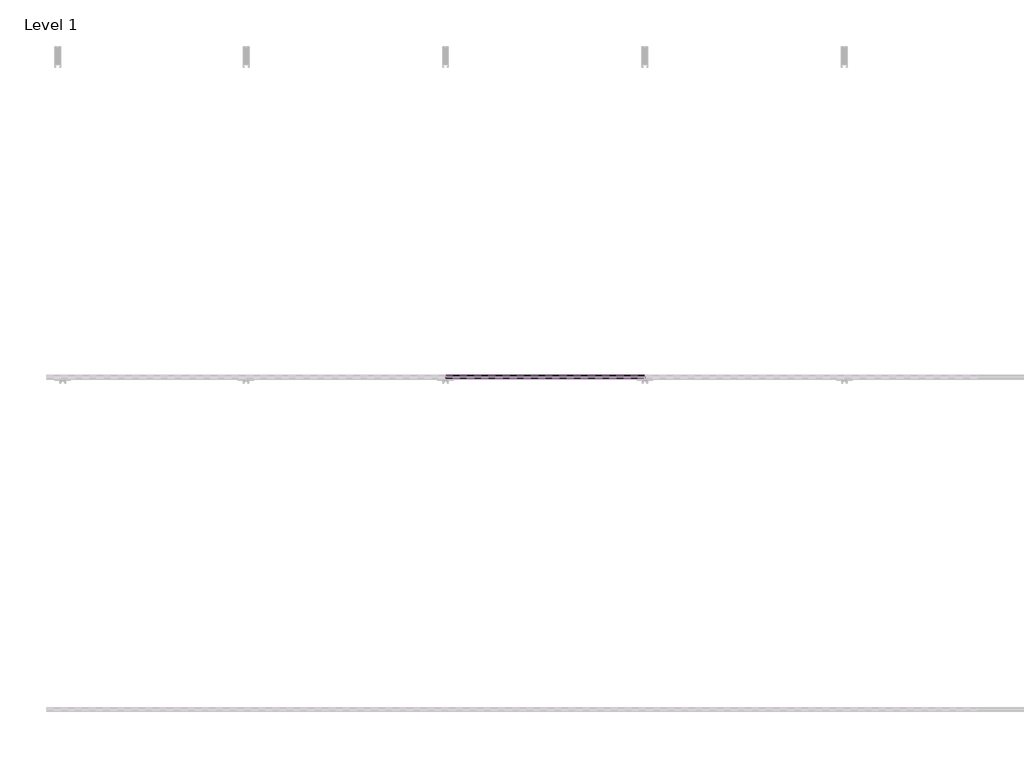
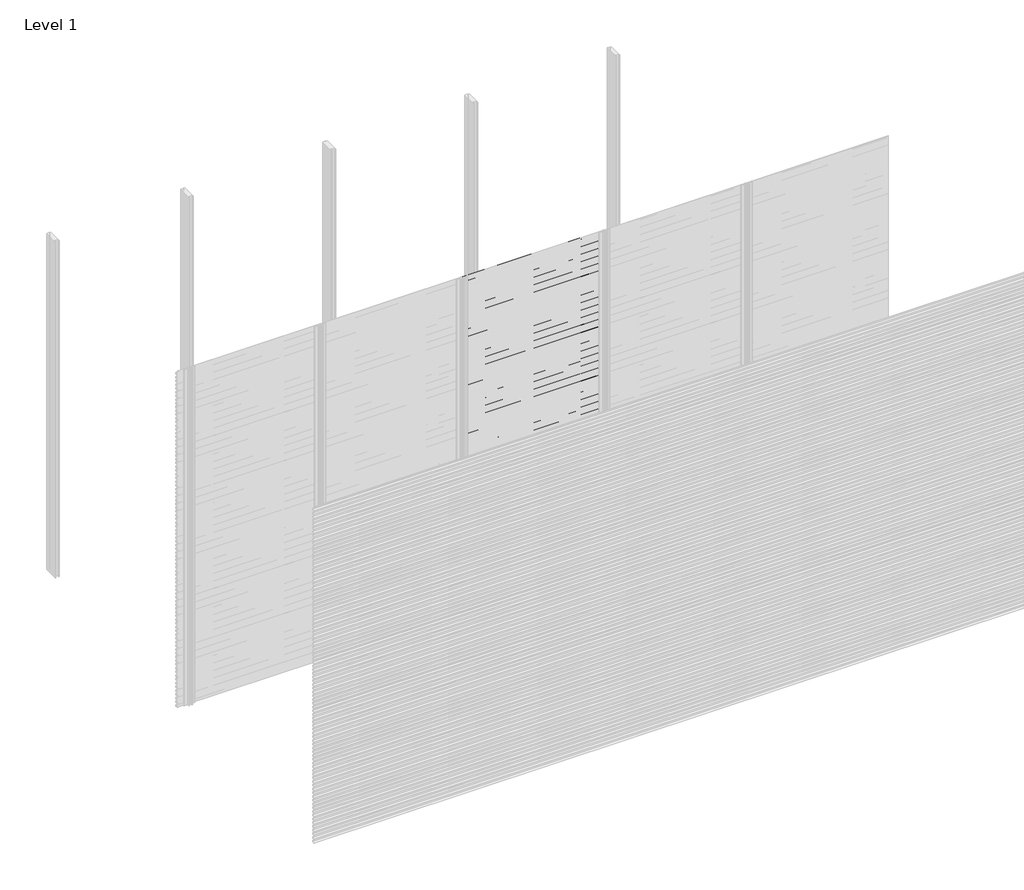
# One storey, part 7 of 77: 72 proxies.
"""IFC4 building model written with IfcOpenShell, lengths in millimetres."""

from ifc_helpers import new_model, si_unit, frame, origin, place, context, project, spatial, polyline, outline, extrude, element, save

model = new_model("IFC4")

# Units and contexts
model_context = context("Model", 3, world=origin())
ifc_project = project(units=[si_unit("LENGTHUNIT", "METRE", prefix="MILLI")], contexts=[model_context])

# Site, building, storey
site = spatial("IfcSite", under=ifc_project)
building = spatial("IfcBuilding", under=site)
storey = spatial("IfcBuildingStorey", under=building, Name="Level 1", Elevation=0.0)

# Proxies
placement = place(None, origin())
element("IfcBuildingElementProxy", 1, Name="Wall Sweeps", at=placement, inside=storey, context=model_context, shape_type="SweptSolid", body=[
    extrude(outline(polyline([(-53978.6, 408.4359887), (-53998.0, 419.6366691), (-53998.0, 432.9), (-53997.0, 432.9), (-53997.0, 420.2191057), (-53977.6, 409.0185105), (-53977.6, 395.4185105), (-53978.6, 396.9953129), (-53978.6, 402.8032062), (-53995.9773817, 394.7), (-53996.4, 395.6063078), (-53978.6, 403.9065841), (-53978.6, 408.4359887)])), frame((1200.0, 0.0, 0.0), z_axis=(1.0, 0.0, 0.0), x_axis=(0.0, 1.0, 0.0)), (0.0, 0.0, 1.0), 1200.0),
])
element("IfcBuildingElementProxy", 2, Name="Wall Sweeps", at=placement, inside=storey, context=model_context, shape_type="SweptSolid", body=[
    extrude(outline(polyline([(-53978.6, 375.1359887), (-53998.0, 386.3366691), (-53998.0, 399.6), (-53997.0, 399.6), (-53997.0, 386.9191057), (-53977.6, 375.7185105), (-53977.6, 362.1185105), (-53978.6, 363.6953129), (-53978.6, 369.5032062), (-53995.9773817, 361.4), (-53996.4, 362.3063078), (-53978.6, 370.6065841), (-53978.6, 375.1359887)])), frame((1200.0, 0.0, 0.0), z_axis=(1.0, 0.0, 0.0), x_axis=(0.0, 1.0, 0.0)), (0.0, 0.0, 1.0), 1200.0),
])
element("IfcBuildingElementProxy", 3, Name="Wall Sweeps", at=placement, inside=storey, context=model_context, shape_type="SweptSolid", body=[
    extrude(outline(polyline([(-53978.6, 341.8359887), (-53998.0, 353.0366691), (-53998.0, 366.3), (-53997.0, 366.3), (-53997.0, 353.6191057), (-53977.6, 342.4185105), (-53977.6, 328.8185105), (-53978.6, 330.3953129), (-53978.6, 336.2032062), (-53995.9773817, 328.1), (-53996.4, 329.0063078), (-53978.6, 337.3065841), (-53978.6, 341.8359887)])), frame((1200.0, 0.0, 0.0), z_axis=(1.0, 0.0, 0.0), x_axis=(0.0, 1.0, 0.0)), (0.0, 0.0, 1.0), 1200.0),
])
element("IfcBuildingElementProxy", 4, Name="Wall Sweeps", at=placement, inside=storey, context=model_context, shape_type="SweptSolid", body=[
    extrude(outline(polyline([(-53978.6, 308.5359887), (-53998.0, 319.7366691), (-53998.0, 333.0), (-53997.0, 333.0), (-53997.0, 320.3191057), (-53977.6, 309.1185105), (-53977.6, 295.5185105), (-53978.6, 297.0953129), (-53978.6, 302.9032062), (-53995.9773817, 294.8), (-53996.4, 295.7063078), (-53978.6, 304.0065841), (-53978.6, 308.5359887)])), frame((1200.0, 0.0, 0.0), z_axis=(1.0, 0.0, 0.0), x_axis=(0.0, 1.0, 0.0)), (0.0, 0.0, 1.0), 1200.0),
])
element("IfcBuildingElementProxy", 5, Name="Wall Sweeps", at=placement, inside=storey, context=model_context, shape_type="SweptSolid", body=[
    extrude(outline(polyline([(-53978.6, 275.2359887), (-53998.0, 286.4366691), (-53998.0, 299.7), (-53997.0, 299.7), (-53997.0, 287.0191057), (-53977.6, 275.8185105), (-53977.6, 262.2185105), (-53978.6, 263.7953129), (-53978.6, 269.6032062), (-53995.9773817, 261.5), (-53996.4, 262.4063078), (-53978.6, 270.7065841), (-53978.6, 275.2359887)])), frame((1200.0, 0.0, 0.0), z_axis=(1.0, 0.0, 0.0), x_axis=(0.0, 1.0, 0.0)), (0.0, 0.0, 1.0), 1200.0),
])
element("IfcBuildingElementProxy", 6, Name="Wall Sweeps", at=placement, inside=storey, context=model_context, shape_type="SweptSolid", body=[
    extrude(outline(polyline([(-53978.6, 241.9359887), (-53998.0, 253.1366691), (-53998.0, 266.4), (-53997.0, 266.4), (-53997.0, 253.7191057), (-53977.6, 242.5185105), (-53977.6, 228.9185105), (-53978.6, 230.4953129), (-53978.6, 236.3032062), (-53995.9773817, 228.2), (-53996.4, 229.1063078), (-53978.6, 237.4065841), (-53978.6, 241.9359887)])), frame((1200.0, 0.0, 0.0), z_axis=(1.0, 0.0, 0.0), x_axis=(0.0, 1.0, 0.0)), (0.0, 0.0, 1.0), 1200.0),
])
element("IfcBuildingElementProxy", 7, Name="Wall Sweeps", at=placement, inside=storey, context=model_context, shape_type="SweptSolid", body=[
    extrude(outline(polyline([(-53978.6, 208.6359887), (-53998.0, 219.8366691), (-53998.0, 233.1), (-53997.0, 233.1), (-53997.0, 220.4191057), (-53977.6, 209.2185105), (-53977.6, 195.6185105), (-53978.6, 197.1953129), (-53978.6, 203.0032062), (-53995.9773817, 194.9), (-53996.4, 195.8063078), (-53978.6, 204.1065841), (-53978.6, 208.6359887)])), frame((1200.0, 0.0, 0.0), z_axis=(1.0, 0.0, 0.0), x_axis=(0.0, 1.0, 0.0)), (0.0, 0.0, 1.0), 1200.0),
])
element("IfcBuildingElementProxy", 8, Name="Wall Sweeps", at=placement, inside=storey, context=model_context, shape_type="SweptSolid", body=[
    extrude(outline(polyline([(-53978.6, 175.3359887), (-53998.0, 186.5366691), (-53998.0, 199.8), (-53997.0, 199.8), (-53997.0, 187.1191057), (-53977.6, 175.9185105), (-53977.6, 162.3185105), (-53978.6, 163.8953129), (-53978.6, 169.7032062), (-53995.9773817, 161.6), (-53996.4, 162.5063078), (-53978.6, 170.8065841), (-53978.6, 175.3359887)])), frame((1200.0, 0.0, 0.0), z_axis=(1.0, 0.0, 0.0), x_axis=(0.0, 1.0, 0.0)), (0.0, 0.0, 1.0), 1200.0),
])
element("IfcBuildingElementProxy", 9, Name="Wall Sweeps", at=placement, inside=storey, context=model_context, shape_type="SweptSolid", body=[
    extrude(outline(polyline([(-53978.6, 142.0359887), (-53998.0, 153.2366691), (-53998.0, 166.5), (-53997.0, 166.5), (-53997.0, 153.8191057), (-53977.6, 142.6185105), (-53977.6, 129.0185105), (-53978.6, 130.5953129), (-53978.6, 136.4032062), (-53995.9773817, 128.3), (-53996.4, 129.2063078), (-53978.6, 137.5065841), (-53978.6, 142.0359887)])), frame((1200.0, 0.0, 0.0), z_axis=(1.0, 0.0, 0.0), x_axis=(0.0, 1.0, 0.0)), (0.0, 0.0, 1.0), 1200.0),
])
element("IfcBuildingElementProxy", 10, Name="Wall Sweeps", at=placement, inside=storey, context=model_context, shape_type="SweptSolid", body=[
    extrude(outline(polyline([(-53978.6, 108.7359887), (-53998.0, 119.9366691), (-53998.0, 133.2), (-53997.0, 133.2), (-53997.0, 120.5191057), (-53977.6, 109.3185105), (-53977.6, 95.7185105), (-53978.6, 97.2953129), (-53978.6, 103.1032062), (-53995.9773817, 95.0), (-53996.4, 95.9063078), (-53978.6, 104.2065841), (-53978.6, 108.7359887)])), frame((1200.0, 0.0, 0.0), z_axis=(1.0, 0.0, 0.0), x_axis=(0.0, 1.0, 0.0)), (0.0, 0.0, 1.0), 1200.0),
])
element("IfcBuildingElementProxy", 11, Name="Wall Sweeps", at=placement, inside=storey, context=model_context, shape_type="SweptSolid", body=[
    extrude(outline(polyline([(-53978.6, 75.4359887), (-53998.0, 86.6366691), (-53998.0, 99.9), (-53997.0, 99.9), (-53997.0, 87.2191057), (-53977.6, 76.0185105), (-53977.6, 62.4185105), (-53978.6, 63.9953129), (-53978.6, 69.8032062), (-53995.9773817, 61.7), (-53996.4, 62.6063078), (-53978.6, 70.9065841), (-53978.6, 75.4359887)])), frame((1200.0, 0.0, 0.0), z_axis=(1.0, 0.0, 0.0), x_axis=(0.0, 1.0, 0.0)), (0.0, 0.0, 1.0), 1200.0),
])
element("IfcBuildingElementProxy", 12, Name="Wall Sweeps", at=placement, inside=storey, context=model_context, shape_type="SweptSolid", body=[
    extrude(outline(polyline([(-53978.6, 42.1359887), (-53998.0, 53.3366691), (-53998.0, 66.6), (-53997.0, 66.6), (-53997.0, 53.9191057), (-53977.6, 42.7185105), (-53977.6, 29.1185105), (-53978.6, 30.6953129), (-53978.6, 36.5032062), (-53995.9773817, 28.4), (-53996.4, 29.3063078), (-53978.6, 37.6065841), (-53978.6, 42.1359887)])), frame((1200.0, 0.0, 0.0), z_axis=(1.0, 0.0, 0.0), x_axis=(0.0, 1.0, 0.0)), (0.0, 0.0, 1.0), 1200.0),
])
element("IfcBuildingElementProxy", 13, Name="Wall Sweeps", at=placement, inside=storey, context=model_context, shape_type="SweptSolid", body=[
    extrude(outline(polyline([(-53978.6, 8.8359887), (-53998.0, 20.0366691), (-53998.0, 33.3), (-53997.0, 33.3), (-53997.0, 20.6191057), (-53977.6, 9.4185105), (-53977.6, -4.1814895), (-53978.6, -2.6046871), (-53978.6, 3.2032062), (-53995.9773817, -4.9), (-53996.4, -3.9936922), (-53978.6, 4.3065841), (-53978.6, 8.8359887)])), frame((1200.0, 0.0, 0.0), z_axis=(1.0, 0.0, 0.0), x_axis=(0.0, 1.0, 0.0)), (0.0, 0.0, 1.0), 1200.0),
])
element("IfcBuildingElementProxy", 14, Name="Wall Sweeps", at=placement, inside=storey, context=model_context, shape_type="SweptSolid", body=[
    extrude(outline(polyline([(-53978.6, 2972.5359887), (-53998.0, 2983.7366691), (-53998.0, 2997.0), (-53997.0, 2997.0), (-53997.0, 2984.3191057), (-53977.6, 2973.1185105), (-53977.6, 2959.5185105), (-53978.6, 2961.0953129), (-53978.6, 2966.9032062), (-53995.9773817, 2958.8), (-53996.4, 2959.7063078), (-53978.6, 2968.0065841), (-53978.6, 2972.5359887)])), frame((2400.0, 0.0, 0.0), z_axis=(1.0, 0.0, 0.0), x_axis=(0.0, 1.0, 0.0)), (0.0, 0.0, 1.0), 1200.0),
])
element("IfcBuildingElementProxy", 15, Name="Wall Sweeps", at=placement, inside=storey, context=model_context, shape_type="SweptSolid", body=[
    extrude(outline(polyline([(-53978.6, 2939.2359887), (-53998.0, 2950.4366691), (-53998.0, 2963.7), (-53997.0, 2963.7), (-53997.0, 2951.0191057), (-53977.6, 2939.8185105), (-53977.6, 2926.2185105), (-53978.6, 2927.7953129), (-53978.6, 2933.6032062), (-53995.9773817, 2925.5), (-53996.4, 2926.4063078), (-53978.6, 2934.7065841), (-53978.6, 2939.2359887)])), frame((2400.0, 0.0, 0.0), z_axis=(1.0, 0.0, 0.0), x_axis=(0.0, 1.0, 0.0)), (0.0, 0.0, 1.0), 1200.0),
])
element("IfcBuildingElementProxy", 16, Name="Wall Sweeps", at=placement, inside=storey, context=model_context, shape_type="SweptSolid", body=[
    extrude(outline(polyline([(-53978.6, 2905.9359887), (-53998.0, 2917.1366691), (-53998.0, 2930.4), (-53997.0, 2930.4), (-53997.0, 2917.7191057), (-53977.6, 2906.5185105), (-53977.6, 2892.9185105), (-53978.6, 2894.4953129), (-53978.6, 2900.3032062), (-53995.9773817, 2892.2), (-53996.4, 2893.1063078), (-53978.6, 2901.4065841), (-53978.6, 2905.9359887)])), frame((2400.0, 0.0, 0.0), z_axis=(1.0, 0.0, 0.0), x_axis=(0.0, 1.0, 0.0)), (0.0, 0.0, 1.0), 1200.0),
])
element("IfcBuildingElementProxy", 17, Name="Wall Sweeps", at=placement, inside=storey, context=model_context, shape_type="SweptSolid", body=[
    extrude(outline(polyline([(-53978.6, 2872.6359887), (-53998.0, 2883.8366691), (-53998.0, 2897.1), (-53997.0, 2897.1), (-53997.0, 2884.4191057), (-53977.6, 2873.2185105), (-53977.6, 2859.6185105), (-53978.6, 2861.1953129), (-53978.6, 2867.0032062), (-53995.9773817, 2858.9), (-53996.4, 2859.8063078), (-53978.6, 2868.1065841), (-53978.6, 2872.6359887)])), frame((2400.0, 0.0, 0.0), z_axis=(1.0, 0.0, 0.0), x_axis=(0.0, 1.0, 0.0)), (0.0, 0.0, 1.0), 1200.0),
])
element("IfcBuildingElementProxy", 18, Name="Wall Sweeps", at=placement, inside=storey, context=model_context, shape_type="SweptSolid", body=[
    extrude(outline(polyline([(-53978.6, 2839.3359887), (-53998.0, 2850.5366691), (-53998.0, 2863.8), (-53997.0, 2863.8), (-53997.0, 2851.1191057), (-53977.6, 2839.9185105), (-53977.6, 2826.3185105), (-53978.6, 2827.8953129), (-53978.6, 2833.7032062), (-53995.9773817, 2825.6), (-53996.4, 2826.5063078), (-53978.6, 2834.8065841), (-53978.6, 2839.3359887)])), frame((2400.0, 0.0, 0.0), z_axis=(1.0, 0.0, 0.0), x_axis=(0.0, 1.0, 0.0)), (0.0, 0.0, 1.0), 1200.0),
])
element("IfcBuildingElementProxy", 19, Name="Wall Sweeps", at=placement, inside=storey, context=model_context, shape_type="SweptSolid", body=[
    extrude(outline(polyline([(-53978.6, 2806.0359887), (-53998.0, 2817.2366691), (-53998.0, 2830.5), (-53997.0, 2830.5), (-53997.0, 2817.8191057), (-53977.6, 2806.6185105), (-53977.6, 2793.0185105), (-53978.6, 2794.5953129), (-53978.6, 2800.4032062), (-53995.9773817, 2792.3), (-53996.4, 2793.2063078), (-53978.6, 2801.5065841), (-53978.6, 2806.0359887)])), frame((2400.0, 0.0, 0.0), z_axis=(1.0, 0.0, 0.0), x_axis=(0.0, 1.0, 0.0)), (0.0, 0.0, 1.0), 1200.0),
])
element("IfcBuildingElementProxy", 20, Name="Wall Sweeps", at=placement, inside=storey, context=model_context, shape_type="SweptSolid", body=[
    extrude(outline(polyline([(-53978.6, 2772.7359887), (-53998.0, 2783.9366691), (-53998.0, 2797.2), (-53997.0, 2797.2), (-53997.0, 2784.5191057), (-53977.6, 2773.3185105), (-53977.6, 2759.7185105), (-53978.6, 2761.2953129), (-53978.6, 2767.1032062), (-53995.9773817, 2759.0), (-53996.4, 2759.9063078), (-53978.6, 2768.2065841), (-53978.6, 2772.7359887)])), frame((2400.0, 0.0, 0.0), z_axis=(1.0, 0.0, 0.0), x_axis=(0.0, 1.0, 0.0)), (0.0, 0.0, 1.0), 1200.0),
])
element("IfcBuildingElementProxy", 21, Name="Wall Sweeps", at=placement, inside=storey, context=model_context, shape_type="SweptSolid", body=[
    extrude(outline(polyline([(-53978.6, 2739.4359887), (-53998.0, 2750.6366691), (-53998.0, 2763.9), (-53997.0, 2763.9), (-53997.0, 2751.2191057), (-53977.6, 2740.0185105), (-53977.6, 2726.4185105), (-53978.6, 2727.9953129), (-53978.6, 2733.8032062), (-53995.9773817, 2725.7), (-53996.4, 2726.6063078), (-53978.6, 2734.9065841), (-53978.6, 2739.4359887)])), frame((2400.0, 0.0, 0.0), z_axis=(1.0, 0.0, 0.0), x_axis=(0.0, 1.0, 0.0)), (0.0, 0.0, 1.0), 1200.0),
])
element("IfcBuildingElementProxy", 22, Name="Wall Sweeps", at=placement, inside=storey, context=model_context, shape_type="SweptSolid", body=[
    extrude(outline(polyline([(-53978.6, 2706.1359887), (-53998.0, 2717.3366691), (-53998.0, 2730.6), (-53997.0, 2730.6), (-53997.0, 2717.9191057), (-53977.6, 2706.7185105), (-53977.6, 2693.1185105), (-53978.6, 2694.6953129), (-53978.6, 2700.5032062), (-53995.9773817, 2692.4), (-53996.4, 2693.3063078), (-53978.6, 2701.6065841), (-53978.6, 2706.1359887)])), frame((2400.0, 0.0, 0.0), z_axis=(1.0, 0.0, 0.0), x_axis=(0.0, 1.0, 0.0)), (0.0, 0.0, 1.0), 1200.0),
])
element("IfcBuildingElementProxy", 23, Name="Wall Sweeps", at=placement, inside=storey, context=model_context, shape_type="SweptSolid", body=[
    extrude(outline(polyline([(-53978.6, 2672.8359887), (-53998.0, 2684.0366691), (-53998.0, 2697.3), (-53997.0, 2697.3), (-53997.0, 2684.6191057), (-53977.6, 2673.4185105), (-53977.6, 2659.8185105), (-53978.6, 2661.3953129), (-53978.6, 2667.2032062), (-53995.9773817, 2659.1), (-53996.4, 2660.0063078), (-53978.6, 2668.3065841), (-53978.6, 2672.8359887)])), frame((2400.0, 0.0, 0.0), z_axis=(1.0, 0.0, 0.0), x_axis=(0.0, 1.0, 0.0)), (0.0, 0.0, 1.0), 1200.0),
])
element("IfcBuildingElementProxy", 24, Name="Wall Sweeps", at=placement, inside=storey, context=model_context, shape_type="SweptSolid", body=[
    extrude(outline(polyline([(-53978.6, 2639.5359887), (-53998.0, 2650.7366691), (-53998.0, 2664.0), (-53997.0, 2664.0), (-53997.0, 2651.3191057), (-53977.6, 2640.1185105), (-53977.6, 2626.5185105), (-53978.6, 2628.0953129), (-53978.6, 2633.9032062), (-53995.9773817, 2625.8), (-53996.4, 2626.7063078), (-53978.6, 2635.0065841), (-53978.6, 2639.5359887)])), frame((2400.0, 0.0, 0.0), z_axis=(1.0, 0.0, 0.0), x_axis=(0.0, 1.0, 0.0)), (0.0, 0.0, 1.0), 1200.0),
])
element("IfcBuildingElementProxy", 25, Name="Wall Sweeps", at=placement, inside=storey, context=model_context, shape_type="SweptSolid", body=[
    extrude(outline(polyline([(-53978.6, 2606.2359887), (-53998.0, 2617.4366691), (-53998.0, 2630.7), (-53997.0, 2630.7), (-53997.0, 2618.0191057), (-53977.6, 2606.8185105), (-53977.6, 2593.2185105), (-53978.6, 2594.7953129), (-53978.6, 2600.6032062), (-53995.9773817, 2592.5), (-53996.4, 2593.4063078), (-53978.6, 2601.7065841), (-53978.6, 2606.2359887)])), frame((2400.0, 0.0, 0.0), z_axis=(1.0, 0.0, 0.0), x_axis=(0.0, 1.0, 0.0)), (0.0, 0.0, 1.0), 1200.0),
])
element("IfcBuildingElementProxy", 26, Name="Wall Sweeps", at=placement, inside=storey, context=model_context, shape_type="SweptSolid", body=[
    extrude(outline(polyline([(-53978.6, 2572.9359887), (-53998.0, 2584.1366691), (-53998.0, 2597.4), (-53997.0, 2597.4), (-53997.0, 2584.7191057), (-53977.6, 2573.5185105), (-53977.6, 2559.9185105), (-53978.6, 2561.4953129), (-53978.6, 2567.3032062), (-53995.9773817, 2559.2), (-53996.4, 2560.1063078), (-53978.6, 2568.4065841), (-53978.6, 2572.9359887)])), frame((2400.0, 0.0, 0.0), z_axis=(1.0, 0.0, 0.0), x_axis=(0.0, 1.0, 0.0)), (0.0, 0.0, 1.0), 1200.0),
])
element("IfcBuildingElementProxy", 27, Name="Wall Sweeps", at=placement, inside=storey, context=model_context, shape_type="SweptSolid", body=[
    extrude(outline(polyline([(-53978.6, 2539.6359887), (-53998.0, 2550.8366691), (-53998.0, 2564.1), (-53997.0, 2564.1), (-53997.0, 2551.4191057), (-53977.6, 2540.2185105), (-53977.6, 2526.6185105), (-53978.6, 2528.1953129), (-53978.6, 2534.0032062), (-53995.9773817, 2525.9), (-53996.4, 2526.8063078), (-53978.6, 2535.1065841), (-53978.6, 2539.6359887)])), frame((2400.0, 0.0, 0.0), z_axis=(1.0, 0.0, 0.0), x_axis=(0.0, 1.0, 0.0)), (0.0, 0.0, 1.0), 1200.0),
])
element("IfcBuildingElementProxy", 28, Name="Wall Sweeps", at=placement, inside=storey, context=model_context, shape_type="SweptSolid", body=[
    extrude(outline(polyline([(-53978.6, 2506.3359887), (-53998.0, 2517.5366691), (-53998.0, 2530.8), (-53997.0, 2530.8), (-53997.0, 2518.1191057), (-53977.6, 2506.9185105), (-53977.6, 2493.3185105), (-53978.6, 2494.8953129), (-53978.6, 2500.7032062), (-53995.9773817, 2492.6), (-53996.4, 2493.5063078), (-53978.6, 2501.8065841), (-53978.6, 2506.3359887)])), frame((2400.0, 0.0, 0.0), z_axis=(1.0, 0.0, 0.0), x_axis=(0.0, 1.0, 0.0)), (0.0, 0.0, 1.0), 1200.0),
])
element("IfcBuildingElementProxy", 29, Name="Wall Sweeps", at=placement, inside=storey, context=model_context, shape_type="SweptSolid", body=[
    extrude(outline(polyline([(-53978.6, 2473.0359887), (-53998.0, 2484.2366691), (-53998.0, 2497.5), (-53997.0, 2497.5), (-53997.0, 2484.8191057), (-53977.6, 2473.6185105), (-53977.6, 2460.0185105), (-53978.6, 2461.5953129), (-53978.6, 2467.4032062), (-53995.9773817, 2459.3), (-53996.4, 2460.2063078), (-53978.6, 2468.5065841), (-53978.6, 2473.0359887)])), frame((2400.0, 0.0, 0.0), z_axis=(1.0, 0.0, 0.0), x_axis=(0.0, 1.0, 0.0)), (0.0, 0.0, 1.0), 1200.0),
])
element("IfcBuildingElementProxy", 30, Name="Wall Sweeps", at=placement, inside=storey, context=model_context, shape_type="SweptSolid", body=[
    extrude(outline(polyline([(-53978.6, 2439.7359887), (-53998.0, 2450.9366691), (-53998.0, 2464.2), (-53997.0, 2464.2), (-53997.0, 2451.5191057), (-53977.6, 2440.3185105), (-53977.6, 2426.7185105), (-53978.6, 2428.2953129), (-53978.6, 2434.1032062), (-53995.9773817, 2426.0), (-53996.4, 2426.9063078), (-53978.6, 2435.2065841), (-53978.6, 2439.7359887)])), frame((2400.0, 0.0, 0.0), z_axis=(1.0, 0.0, 0.0), x_axis=(0.0, 1.0, 0.0)), (0.0, 0.0, 1.0), 1200.0),
])
element("IfcBuildingElementProxy", 31, Name="Wall Sweeps", at=placement, inside=storey, context=model_context, shape_type="SweptSolid", body=[
    extrude(outline(polyline([(-53978.6, 2406.4359887), (-53998.0, 2417.6366691), (-53998.0, 2430.9), (-53997.0, 2430.9), (-53997.0, 2418.2191057), (-53977.6, 2407.0185105), (-53977.6, 2393.4185105), (-53978.6, 2394.9953129), (-53978.6, 2400.8032062), (-53995.9773817, 2392.7), (-53996.4, 2393.6063078), (-53978.6, 2401.9065841), (-53978.6, 2406.4359887)])), frame((2400.0, 0.0, 0.0), z_axis=(1.0, 0.0, 0.0), x_axis=(0.0, 1.0, 0.0)), (0.0, 0.0, 1.0), 1200.0),
])
element("IfcBuildingElementProxy", 32, Name="Wall Sweeps", at=placement, inside=storey, context=model_context, shape_type="SweptSolid", body=[
    extrude(outline(polyline([(-53978.6, 2373.1359887), (-53998.0, 2384.3366691), (-53998.0, 2397.6), (-53997.0, 2397.6), (-53997.0, 2384.9191057), (-53977.6, 2373.7185105), (-53977.6, 2360.1185105), (-53978.6, 2361.6953129), (-53978.6, 2367.5032062), (-53995.9773817, 2359.4), (-53996.4, 2360.3063078), (-53978.6, 2368.6065841), (-53978.6, 2373.1359887)])), frame((2400.0, 0.0, 0.0), z_axis=(1.0, 0.0, 0.0), x_axis=(0.0, 1.0, 0.0)), (0.0, 0.0, 1.0), 1200.0),
])
element("IfcBuildingElementProxy", 33, Name="Wall Sweeps", at=placement, inside=storey, context=model_context, shape_type="SweptSolid", body=[
    extrude(outline(polyline([(-53978.6, 2339.8359887), (-53998.0, 2351.0366691), (-53998.0, 2364.3), (-53997.0, 2364.3), (-53997.0, 2351.6191057), (-53977.6, 2340.4185105), (-53977.6, 2326.8185105), (-53978.6, 2328.3953129), (-53978.6, 2334.2032062), (-53995.9773817, 2326.1), (-53996.4, 2327.0063078), (-53978.6, 2335.3065841), (-53978.6, 2339.8359887)])), frame((2400.0, 0.0, 0.0), z_axis=(1.0, 0.0, 0.0), x_axis=(0.0, 1.0, 0.0)), (0.0, 0.0, 1.0), 1200.0),
])
element("IfcBuildingElementProxy", 34, Name="Wall Sweeps", at=placement, inside=storey, context=model_context, shape_type="SweptSolid", body=[
    extrude(outline(polyline([(-53978.6, 2306.5359887), (-53998.0, 2317.7366691), (-53998.0, 2331.0), (-53997.0, 2331.0), (-53997.0, 2318.3191057), (-53977.6, 2307.1185105), (-53977.6, 2293.5185105), (-53978.6, 2295.0953129), (-53978.6, 2300.9032062), (-53995.9773817, 2292.8), (-53996.4, 2293.7063078), (-53978.6, 2302.0065841), (-53978.6, 2306.5359887)])), frame((2400.0, 0.0, 0.0), z_axis=(1.0, 0.0, 0.0), x_axis=(0.0, 1.0, 0.0)), (0.0, 0.0, 1.0), 1200.0),
])
element("IfcBuildingElementProxy", 35, Name="Wall Sweeps", at=placement, inside=storey, context=model_context, shape_type="SweptSolid", body=[
    extrude(outline(polyline([(-53978.6, 2273.2359887), (-53998.0, 2284.4366691), (-53998.0, 2297.7), (-53997.0, 2297.7), (-53997.0, 2285.0191057), (-53977.6, 2273.8185105), (-53977.6, 2260.2185105), (-53978.6, 2261.7953129), (-53978.6, 2267.6032062), (-53995.9773817, 2259.5), (-53996.4, 2260.4063078), (-53978.6, 2268.7065841), (-53978.6, 2273.2359887)])), frame((2400.0, 0.0, 0.0), z_axis=(1.0, 0.0, 0.0), x_axis=(0.0, 1.0, 0.0)), (0.0, 0.0, 1.0), 1200.0),
])
element("IfcBuildingElementProxy", 36, Name="Wall Sweeps", at=placement, inside=storey, context=model_context, shape_type="SweptSolid", body=[
    extrude(outline(polyline([(-53978.6, 2239.9359887), (-53998.0, 2251.1366691), (-53998.0, 2264.4), (-53997.0, 2264.4), (-53997.0, 2251.7191057), (-53977.6, 2240.5185105), (-53977.6, 2226.9185105), (-53978.6, 2228.4953129), (-53978.6, 2234.3032062), (-53995.9773817, 2226.2), (-53996.4, 2227.1063078), (-53978.6, 2235.4065841), (-53978.6, 2239.9359887)])), frame((2400.0, 0.0, 0.0), z_axis=(1.0, 0.0, 0.0), x_axis=(0.0, 1.0, 0.0)), (0.0, 0.0, 1.0), 1200.0),
])
element("IfcBuildingElementProxy", 37, Name="Wall Sweeps", at=placement, inside=storey, context=model_context, shape_type="SweptSolid", body=[
    extrude(outline(polyline([(-53978.6, 2206.6359887), (-53998.0, 2217.8366691), (-53998.0, 2231.1), (-53997.0, 2231.1), (-53997.0, 2218.4191057), (-53977.6, 2207.2185105), (-53977.6, 2193.6185105), (-53978.6, 2195.1953129), (-53978.6, 2201.0032062), (-53995.9773817, 2192.9), (-53996.4, 2193.8063078), (-53978.6, 2202.1065841), (-53978.6, 2206.6359887)])), frame((2400.0, 0.0, 0.0), z_axis=(1.0, 0.0, 0.0), x_axis=(0.0, 1.0, 0.0)), (0.0, 0.0, 1.0), 1200.0),
])
element("IfcBuildingElementProxy", 38, Name="Wall Sweeps", at=placement, inside=storey, context=model_context, shape_type="SweptSolid", body=[
    extrude(outline(polyline([(-53978.6, 2173.3359887), (-53998.0, 2184.5366691), (-53998.0, 2197.8), (-53997.0, 2197.8), (-53997.0, 2185.1191057), (-53977.6, 2173.9185105), (-53977.6, 2160.3185105), (-53978.6, 2161.8953129), (-53978.6, 2167.7032062), (-53995.9773817, 2159.6), (-53996.4, 2160.5063078), (-53978.6, 2168.8065841), (-53978.6, 2173.3359887)])), frame((2400.0, 0.0, 0.0), z_axis=(1.0, 0.0, 0.0), x_axis=(0.0, 1.0, 0.0)), (0.0, 0.0, 1.0), 1200.0),
])
element("IfcBuildingElementProxy", 39, Name="Wall Sweeps", at=placement, inside=storey, context=model_context, shape_type="SweptSolid", body=[
    extrude(outline(polyline([(-53978.6, 2140.0359887), (-53998.0, 2151.2366691), (-53998.0, 2164.5), (-53997.0, 2164.5), (-53997.0, 2151.8191057), (-53977.6, 2140.6185105), (-53977.6, 2127.0185105), (-53978.6, 2128.5953129), (-53978.6, 2134.4032062), (-53995.9773817, 2126.3), (-53996.4, 2127.2063078), (-53978.6, 2135.5065841), (-53978.6, 2140.0359887)])), frame((2400.0, 0.0, 0.0), z_axis=(1.0, 0.0, 0.0), x_axis=(0.0, 1.0, 0.0)), (0.0, 0.0, 1.0), 1200.0),
])
element("IfcBuildingElementProxy", 40, Name="Wall Sweeps", at=placement, inside=storey, context=model_context, shape_type="SweptSolid", body=[
    extrude(outline(polyline([(-53978.6, 2106.7359887), (-53998.0, 2117.9366691), (-53998.0, 2131.2), (-53997.0, 2131.2), (-53997.0, 2118.5191057), (-53977.6, 2107.3185105), (-53977.6, 2093.7185105), (-53978.6, 2095.2953129), (-53978.6, 2101.1032062), (-53995.9773817, 2093.0), (-53996.4, 2093.9063078), (-53978.6, 2102.2065841), (-53978.6, 2106.7359887)])), frame((2400.0, 0.0, 0.0), z_axis=(1.0, 0.0, 0.0), x_axis=(0.0, 1.0, 0.0)), (0.0, 0.0, 1.0), 1200.0),
])
element("IfcBuildingElementProxy", 41, Name="Wall Sweeps", at=placement, inside=storey, context=model_context, shape_type="SweptSolid", body=[
    extrude(outline(polyline([(-53978.6, 2073.4359887), (-53998.0, 2084.6366691), (-53998.0, 2097.9), (-53997.0, 2097.9), (-53997.0, 2085.2191057), (-53977.6, 2074.0185105), (-53977.6, 2060.4185105), (-53978.6, 2061.9953129), (-53978.6, 2067.8032062), (-53995.9773817, 2059.7), (-53996.4, 2060.6063078), (-53978.6, 2068.9065841), (-53978.6, 2073.4359887)])), frame((2400.0, 0.0, 0.0), z_axis=(1.0, 0.0, 0.0), x_axis=(0.0, 1.0, 0.0)), (0.0, 0.0, 1.0), 1200.0),
])
element("IfcBuildingElementProxy", 42, Name="Wall Sweeps", at=placement, inside=storey, context=model_context, shape_type="SweptSolid", body=[
    extrude(outline(polyline([(-53978.6, 2040.1359887), (-53998.0, 2051.3366691), (-53998.0, 2064.6), (-53997.0, 2064.6), (-53997.0, 2051.9191057), (-53977.6, 2040.7185105), (-53977.6, 2027.1185105), (-53978.6, 2028.6953129), (-53978.6, 2034.5032062), (-53995.9773817, 2026.4), (-53996.4, 2027.3063078), (-53978.6, 2035.6065841), (-53978.6, 2040.1359887)])), frame((2400.0, 0.0, 0.0), z_axis=(1.0, 0.0, 0.0), x_axis=(0.0, 1.0, 0.0)), (0.0, 0.0, 1.0), 1200.0),
])
element("IfcBuildingElementProxy", 43, Name="Wall Sweeps", at=placement, inside=storey, context=model_context, shape_type="SweptSolid", body=[
    extrude(outline(polyline([(-53978.6, 2006.8359887), (-53998.0, 2018.0366691), (-53998.0, 2031.3), (-53997.0, 2031.3), (-53997.0, 2018.6191057), (-53977.6, 2007.4185105), (-53977.6, 1993.8185105), (-53978.6, 1995.3953129), (-53978.6, 2001.2032062), (-53995.9773817, 1993.1), (-53996.4, 1994.0063078), (-53978.6, 2002.3065841), (-53978.6, 2006.8359887)])), frame((2400.0, 0.0, 0.0), z_axis=(1.0, 0.0, 0.0), x_axis=(0.0, 1.0, 0.0)), (0.0, 0.0, 1.0), 1200.0),
])
element("IfcBuildingElementProxy", 44, Name="Wall Sweeps", at=placement, inside=storey, context=model_context, shape_type="SweptSolid", body=[
    extrude(outline(polyline([(-53978.6, 1973.5359887), (-53998.0, 1984.7366691), (-53998.0, 1998.0), (-53997.0, 1998.0), (-53997.0, 1985.3191057), (-53977.6, 1974.1185105), (-53977.6, 1960.5185105), (-53978.6, 1962.0953129), (-53978.6, 1967.9032062), (-53995.9773817, 1959.8), (-53996.4, 1960.7063078), (-53978.6, 1969.0065841), (-53978.6, 1973.5359887)])), frame((2400.0, 0.0, 0.0), z_axis=(1.0, 0.0, 0.0), x_axis=(0.0, 1.0, 0.0)), (0.0, 0.0, 1.0), 1200.0),
])
element("IfcBuildingElementProxy", 45, Name="Wall Sweeps", at=placement, inside=storey, context=model_context, shape_type="SweptSolid", body=[
    extrude(outline(polyline([(-53978.6, 1940.2359887), (-53998.0, 1951.4366691), (-53998.0, 1964.7), (-53997.0, 1964.7), (-53997.0, 1952.0191057), (-53977.6, 1940.8185105), (-53977.6, 1927.2185105), (-53978.6, 1928.7953129), (-53978.6, 1934.6032062), (-53995.9773817, 1926.5), (-53996.4, 1927.4063078), (-53978.6, 1935.7065841), (-53978.6, 1940.2359887)])), frame((2400.0, 0.0, 0.0), z_axis=(1.0, 0.0, 0.0), x_axis=(0.0, 1.0, 0.0)), (0.0, 0.0, 1.0), 1200.0),
])
element("IfcBuildingElementProxy", 46, Name="Wall Sweeps", at=placement, inside=storey, context=model_context, shape_type="SweptSolid", body=[
    extrude(outline(polyline([(-53978.6, 1906.9359887), (-53998.0, 1918.1366691), (-53998.0, 1931.4), (-53997.0, 1931.4), (-53997.0, 1918.7191057), (-53977.6, 1907.5185105), (-53977.6, 1893.9185105), (-53978.6, 1895.4953129), (-53978.6, 1901.3032062), (-53995.9773817, 1893.2), (-53996.4, 1894.1063078), (-53978.6, 1902.4065841), (-53978.6, 1906.9359887)])), frame((2400.0, 0.0, 0.0), z_axis=(1.0, 0.0, 0.0), x_axis=(0.0, 1.0, 0.0)), (0.0, 0.0, 1.0), 1200.0),
])
element("IfcBuildingElementProxy", 47, Name="Wall Sweeps", at=placement, inside=storey, context=model_context, shape_type="SweptSolid", body=[
    extrude(outline(polyline([(-53978.6, 1873.6359887), (-53998.0, 1884.8366691), (-53998.0, 1898.1), (-53997.0, 1898.1), (-53997.0, 1885.4191057), (-53977.6, 1874.2185105), (-53977.6, 1860.6185105), (-53978.6, 1862.1953129), (-53978.6, 1868.0032062), (-53995.9773817, 1859.9), (-53996.4, 1860.8063078), (-53978.6, 1869.1065841), (-53978.6, 1873.6359887)])), frame((2400.0, 0.0, 0.0), z_axis=(1.0, 0.0, 0.0), x_axis=(0.0, 1.0, 0.0)), (0.0, 0.0, 1.0), 1200.0),
])
element("IfcBuildingElementProxy", 48, Name="Wall Sweeps", at=placement, inside=storey, context=model_context, shape_type="SweptSolid", body=[
    extrude(outline(polyline([(-53978.6, 1840.3359887), (-53998.0, 1851.5366691), (-53998.0, 1864.8), (-53997.0, 1864.8), (-53997.0, 1852.1191057), (-53977.6, 1840.9185105), (-53977.6, 1827.3185105), (-53978.6, 1828.8953129), (-53978.6, 1834.7032062), (-53995.9773817, 1826.6), (-53996.4, 1827.5063078), (-53978.6, 1835.8065841), (-53978.6, 1840.3359887)])), frame((2400.0, 0.0, 0.0), z_axis=(1.0, 0.0, 0.0), x_axis=(0.0, 1.0, 0.0)), (0.0, 0.0, 1.0), 1200.0),
])
element("IfcBuildingElementProxy", 49, Name="Wall Sweeps", at=placement, inside=storey, context=model_context, shape_type="SweptSolid", body=[
    extrude(outline(polyline([(-53978.6, 1807.0359887), (-53998.0, 1818.2366691), (-53998.0, 1831.5), (-53997.0, 1831.5), (-53997.0, 1818.8191057), (-53977.6, 1807.6185105), (-53977.6, 1794.0185105), (-53978.6, 1795.5953129), (-53978.6, 1801.4032062), (-53995.9773817, 1793.3), (-53996.4, 1794.2063078), (-53978.6, 1802.5065841), (-53978.6, 1807.0359887)])), frame((2400.0, 0.0, 0.0), z_axis=(1.0, 0.0, 0.0), x_axis=(0.0, 1.0, 0.0)), (0.0, 0.0, 1.0), 1200.0),
])
element("IfcBuildingElementProxy", 50, Name="Wall Sweeps", at=placement, inside=storey, context=model_context, shape_type="SweptSolid", body=[
    extrude(outline(polyline([(-53978.6, 1773.7359887), (-53998.0, 1784.9366691), (-53998.0, 1798.2), (-53997.0, 1798.2), (-53997.0, 1785.5191057), (-53977.6, 1774.3185105), (-53977.6, 1760.7185105), (-53978.6, 1762.2953129), (-53978.6, 1768.1032062), (-53995.9773817, 1760.0), (-53996.4, 1760.9063078), (-53978.6, 1769.2065841), (-53978.6, 1773.7359887)])), frame((2400.0, 0.0, 0.0), z_axis=(1.0, 0.0, 0.0), x_axis=(0.0, 1.0, 0.0)), (0.0, 0.0, 1.0), 1200.0),
])
element("IfcBuildingElementProxy", 51, Name="Wall Sweeps", at=placement, inside=storey, context=model_context, shape_type="SweptSolid", body=[
    extrude(outline(polyline([(-53978.6, 1740.4359887), (-53998.0, 1751.6366691), (-53998.0, 1764.9), (-53997.0, 1764.9), (-53997.0, 1752.2191057), (-53977.6, 1741.0185105), (-53977.6, 1727.4185105), (-53978.6, 1728.9953129), (-53978.6, 1734.8032062), (-53995.9773817, 1726.7), (-53996.4, 1727.6063078), (-53978.6, 1735.9065841), (-53978.6, 1740.4359887)])), frame((2400.0, 0.0, 0.0), z_axis=(1.0, 0.0, 0.0), x_axis=(0.0, 1.0, 0.0)), (0.0, 0.0, 1.0), 1200.0),
])
element("IfcBuildingElementProxy", 52, Name="Wall Sweeps", at=placement, inside=storey, context=model_context, shape_type="SweptSolid", body=[
    extrude(outline(polyline([(-53978.6, 1707.1359887), (-53998.0, 1718.3366691), (-53998.0, 1731.6), (-53997.0, 1731.6), (-53997.0, 1718.9191057), (-53977.6, 1707.7185105), (-53977.6, 1694.1185105), (-53978.6, 1695.6953129), (-53978.6, 1701.5032062), (-53995.9773817, 1693.4), (-53996.4, 1694.3063078), (-53978.6, 1702.6065841), (-53978.6, 1707.1359887)])), frame((2400.0, 0.0, 0.0), z_axis=(1.0, 0.0, 0.0), x_axis=(0.0, 1.0, 0.0)), (0.0, 0.0, 1.0), 1200.0),
])
element("IfcBuildingElementProxy", 53, Name="Wall Sweeps", at=placement, inside=storey, context=model_context, shape_type="SweptSolid", body=[
    extrude(outline(polyline([(-53978.6, 1673.8359887), (-53998.0, 1685.0366691), (-53998.0, 1698.3), (-53997.0, 1698.3), (-53997.0, 1685.6191057), (-53977.6, 1674.4185105), (-53977.6, 1660.8185105), (-53978.6, 1662.3953129), (-53978.6, 1668.2032062), (-53995.9773817, 1660.1), (-53996.4, 1661.0063078), (-53978.6, 1669.3065841), (-53978.6, 1673.8359887)])), frame((2400.0, 0.0, 0.0), z_axis=(1.0, 0.0, 0.0), x_axis=(0.0, 1.0, 0.0)), (0.0, 0.0, 1.0), 1200.0),
])
element("IfcBuildingElementProxy", 54, Name="Wall Sweeps", at=placement, inside=storey, context=model_context, shape_type="SweptSolid", body=[
    extrude(outline(polyline([(-53978.6, 1640.5359887), (-53998.0, 1651.7366691), (-53998.0, 1665.0), (-53997.0, 1665.0), (-53997.0, 1652.3191057), (-53977.6, 1641.1185105), (-53977.6, 1627.5185105), (-53978.6, 1629.0953129), (-53978.6, 1634.9032062), (-53995.9773817, 1626.8), (-53996.4, 1627.7063078), (-53978.6, 1636.0065841), (-53978.6, 1640.5359887)])), frame((2400.0, 0.0, 0.0), z_axis=(1.0, 0.0, 0.0), x_axis=(0.0, 1.0, 0.0)), (0.0, 0.0, 1.0), 1200.0),
])
element("IfcBuildingElementProxy", 55, Name="Wall Sweeps", at=placement, inside=storey, context=model_context, shape_type="SweptSolid", body=[
    extrude(outline(polyline([(-53978.6, 1607.2359887), (-53998.0, 1618.4366691), (-53998.0, 1631.7), (-53997.0, 1631.7), (-53997.0, 1619.0191057), (-53977.6, 1607.8185105), (-53977.6, 1594.2185105), (-53978.6, 1595.7953129), (-53978.6, 1601.6032062), (-53995.9773817, 1593.5), (-53996.4, 1594.4063078), (-53978.6, 1602.7065841), (-53978.6, 1607.2359887)])), frame((2400.0, 0.0, 0.0), z_axis=(1.0, 0.0, 0.0), x_axis=(0.0, 1.0, 0.0)), (0.0, 0.0, 1.0), 1200.0),
])
element("IfcBuildingElementProxy", 56, Name="Wall Sweeps", at=placement, inside=storey, context=model_context, shape_type="SweptSolid", body=[
    extrude(outline(polyline([(-53978.6, 1573.9359887), (-53998.0, 1585.1366691), (-53998.0, 1598.4), (-53997.0, 1598.4), (-53997.0, 1585.7191057), (-53977.6, 1574.5185105), (-53977.6, 1560.9185105), (-53978.6, 1562.4953129), (-53978.6, 1568.3032062), (-53995.9773817, 1560.2), (-53996.4, 1561.1063078), (-53978.6, 1569.4065841), (-53978.6, 1573.9359887)])), frame((2400.0, 0.0, 0.0), z_axis=(1.0, 0.0, 0.0), x_axis=(0.0, 1.0, 0.0)), (0.0, 0.0, 1.0), 1200.0),
])
element("IfcBuildingElementProxy", 57, Name="Wall Sweeps", at=placement, inside=storey, context=model_context, shape_type="SweptSolid", body=[
    extrude(outline(polyline([(-53978.6, 1540.6359887), (-53998.0, 1551.8366691), (-53998.0, 1565.1), (-53997.0, 1565.1), (-53997.0, 1552.4191057), (-53977.6, 1541.2185105), (-53977.6, 1527.6185105), (-53978.6, 1529.1953129), (-53978.6, 1535.0032062), (-53995.9773817, 1526.9), (-53996.4, 1527.8063078), (-53978.6, 1536.1065841), (-53978.6, 1540.6359887)])), frame((2400.0, 0.0, 0.0), z_axis=(1.0, 0.0, 0.0), x_axis=(0.0, 1.0, 0.0)), (0.0, 0.0, 1.0), 1200.0),
])
element("IfcBuildingElementProxy", 58, Name="Wall Sweeps", at=placement, inside=storey, context=model_context, shape_type="SweptSolid", body=[
    extrude(outline(polyline([(-53978.6, 1507.3359887), (-53998.0, 1518.5366691), (-53998.0, 1531.8), (-53997.0, 1531.8), (-53997.0, 1519.1191057), (-53977.6, 1507.9185105), (-53977.6, 1494.3185105), (-53978.6, 1495.8953129), (-53978.6, 1501.7032062), (-53995.9773817, 1493.6), (-53996.4, 1494.5063078), (-53978.6, 1502.8065841), (-53978.6, 1507.3359887)])), frame((2400.0, 0.0, 0.0), z_axis=(1.0, 0.0, 0.0), x_axis=(0.0, 1.0, 0.0)), (0.0, 0.0, 1.0), 1200.0),
])
element("IfcBuildingElementProxy", 59, Name="Wall Sweeps", at=placement, inside=storey, context=model_context, shape_type="SweptSolid", body=[
    extrude(outline(polyline([(-53978.6, 1474.0359887), (-53998.0, 1485.2366691), (-53998.0, 1498.5), (-53997.0, 1498.5), (-53997.0, 1485.8191057), (-53977.6, 1474.6185105), (-53977.6, 1461.0185105), (-53978.6, 1462.5953129), (-53978.6, 1468.4032062), (-53995.9773817, 1460.3), (-53996.4, 1461.2063078), (-53978.6, 1469.5065841), (-53978.6, 1474.0359887)])), frame((2400.0, 0.0, 0.0), z_axis=(1.0, 0.0, 0.0), x_axis=(0.0, 1.0, 0.0)), (0.0, 0.0, 1.0), 1200.0),
])
element("IfcBuildingElementProxy", 60, Name="Wall Sweeps", at=placement, inside=storey, context=model_context, shape_type="SweptSolid", body=[
    extrude(outline(polyline([(-53978.6, 1440.7359887), (-53998.0, 1451.9366691), (-53998.0, 1465.2), (-53997.0, 1465.2), (-53997.0, 1452.5191057), (-53977.6, 1441.3185105), (-53977.6, 1427.7185105), (-53978.6, 1429.2953129), (-53978.6, 1435.1032062), (-53995.9773817, 1427.0), (-53996.4, 1427.9063078), (-53978.6, 1436.2065841), (-53978.6, 1440.7359887)])), frame((2400.0, 0.0, 0.0), z_axis=(1.0, 0.0, 0.0), x_axis=(0.0, 1.0, 0.0)), (0.0, 0.0, 1.0), 1200.0),
])
element("IfcBuildingElementProxy", 61, Name="Wall Sweeps", at=placement, inside=storey, context=model_context, shape_type="SweptSolid", body=[
    extrude(outline(polyline([(-53978.6, 1407.4359887), (-53998.0, 1418.6366691), (-53998.0, 1431.9), (-53997.0, 1431.9), (-53997.0, 1419.2191057), (-53977.6, 1408.0185105), (-53977.6, 1394.4185105), (-53978.6, 1395.9953129), (-53978.6, 1401.8032062), (-53995.9773817, 1393.7), (-53996.4, 1394.6063078), (-53978.6, 1402.9065841), (-53978.6, 1407.4359887)])), frame((2400.0, 0.0, 0.0), z_axis=(1.0, 0.0, 0.0), x_axis=(0.0, 1.0, 0.0)), (0.0, 0.0, 1.0), 1200.0),
])
element("IfcBuildingElementProxy", 62, Name="Wall Sweeps", at=placement, inside=storey, context=model_context, shape_type="SweptSolid", body=[
    extrude(outline(polyline([(-53978.6, 1374.1359887), (-53998.0, 1385.3366691), (-53998.0, 1398.6), (-53997.0, 1398.6), (-53997.0, 1385.9191057), (-53977.6, 1374.7185105), (-53977.6, 1361.1185105), (-53978.6, 1362.6953129), (-53978.6, 1368.5032062), (-53995.9773817, 1360.4), (-53996.4, 1361.3063078), (-53978.6, 1369.6065841), (-53978.6, 1374.1359887)])), frame((2400.0, 0.0, 0.0), z_axis=(1.0, 0.0, 0.0), x_axis=(0.0, 1.0, 0.0)), (0.0, 0.0, 1.0), 1200.0),
])
element("IfcBuildingElementProxy", 63, Name="Wall Sweeps", at=placement, inside=storey, context=model_context, shape_type="SweptSolid", body=[
    extrude(outline(polyline([(-53978.6, 1340.8359887), (-53998.0, 1352.0366691), (-53998.0, 1365.3), (-53997.0, 1365.3), (-53997.0, 1352.6191057), (-53977.6, 1341.4185105), (-53977.6, 1327.8185105), (-53978.6, 1329.3953129), (-53978.6, 1335.2032062), (-53995.9773817, 1327.1), (-53996.4, 1328.0063078), (-53978.6, 1336.3065841), (-53978.6, 1340.8359887)])), frame((2400.0, 0.0, 0.0), z_axis=(1.0, 0.0, 0.0), x_axis=(0.0, 1.0, 0.0)), (0.0, 0.0, 1.0), 1200.0),
])
element("IfcBuildingElementProxy", 64, Name="Wall Sweeps", at=placement, inside=storey, context=model_context, shape_type="SweptSolid", body=[
    extrude(outline(polyline([(-53978.6, 1307.5359887), (-53998.0, 1318.7366691), (-53998.0, 1332.0), (-53997.0, 1332.0), (-53997.0, 1319.3191057), (-53977.6, 1308.1185105), (-53977.6, 1294.5185105), (-53978.6, 1296.0953129), (-53978.6, 1301.9032062), (-53995.9773817, 1293.8), (-53996.4, 1294.7063078), (-53978.6, 1303.0065841), (-53978.6, 1307.5359887)])), frame((2400.0, 0.0, 0.0), z_axis=(1.0, 0.0, 0.0), x_axis=(0.0, 1.0, 0.0)), (0.0, 0.0, 1.0), 1200.0),
])
element("IfcBuildingElementProxy", 65, Name="Wall Sweeps", at=placement, inside=storey, context=model_context, shape_type="SweptSolid", body=[
    extrude(outline(polyline([(-53978.6, 1274.2359887), (-53998.0, 1285.4366691), (-53998.0, 1298.7), (-53997.0, 1298.7), (-53997.0, 1286.0191057), (-53977.6, 1274.8185105), (-53977.6, 1261.2185105), (-53978.6, 1262.7953129), (-53978.6, 1268.6032062), (-53995.9773817, 1260.5), (-53996.4, 1261.4063078), (-53978.6, 1269.7065841), (-53978.6, 1274.2359887)])), frame((2400.0, 0.0, 0.0), z_axis=(1.0, 0.0, 0.0), x_axis=(0.0, 1.0, 0.0)), (0.0, 0.0, 1.0), 1200.0),
])
element("IfcBuildingElementProxy", 66, Name="Wall Sweeps", at=placement, inside=storey, context=model_context, shape_type="SweptSolid", body=[
    extrude(outline(polyline([(-53978.6, 1240.9359887), (-53998.0, 1252.1366691), (-53998.0, 1265.4), (-53997.0, 1265.4), (-53997.0, 1252.7191057), (-53977.6, 1241.5185105), (-53977.6, 1227.9185105), (-53978.6, 1229.4953129), (-53978.6, 1235.3032062), (-53995.9773817, 1227.2), (-53996.4, 1228.1063078), (-53978.6, 1236.4065841), (-53978.6, 1240.9359887)])), frame((2400.0, 0.0, 0.0), z_axis=(1.0, 0.0, 0.0), x_axis=(0.0, 1.0, 0.0)), (0.0, 0.0, 1.0), 1200.0),
])
element("IfcBuildingElementProxy", 67, Name="Wall Sweeps", at=placement, inside=storey, context=model_context, shape_type="SweptSolid", body=[
    extrude(outline(polyline([(-53978.6, 1207.6359887), (-53998.0, 1218.8366691), (-53998.0, 1232.1), (-53997.0, 1232.1), (-53997.0, 1219.4191057), (-53977.6, 1208.2185105), (-53977.6, 1194.6185105), (-53978.6, 1196.1953129), (-53978.6, 1202.0032062), (-53995.9773817, 1193.9), (-53996.4, 1194.8063078), (-53978.6, 1203.1065841), (-53978.6, 1207.6359887)])), frame((2400.0, 0.0, 0.0), z_axis=(1.0, 0.0, 0.0), x_axis=(0.0, 1.0, 0.0)), (0.0, 0.0, 1.0), 1200.0),
])
element("IfcBuildingElementProxy", 68, Name="Wall Sweeps", at=placement, inside=storey, context=model_context, shape_type="SweptSolid", body=[
    extrude(outline(polyline([(-53978.6, 1174.3359887), (-53998.0, 1185.5366691), (-53998.0, 1198.8), (-53997.0, 1198.8), (-53997.0, 1186.1191057), (-53977.6, 1174.9185105), (-53977.6, 1161.3185105), (-53978.6, 1162.8953129), (-53978.6, 1168.7032062), (-53995.9773817, 1160.6), (-53996.4, 1161.5063078), (-53978.6, 1169.8065841), (-53978.6, 1174.3359887)])), frame((2400.0, 0.0, 0.0), z_axis=(1.0, 0.0, 0.0), x_axis=(0.0, 1.0, 0.0)), (0.0, 0.0, 1.0), 1200.0),
])
element("IfcBuildingElementProxy", 69, Name="Wall Sweeps", at=placement, inside=storey, context=model_context, shape_type="SweptSolid", body=[
    extrude(outline(polyline([(-53978.6, 1141.0359887), (-53998.0, 1152.2366691), (-53998.0, 1165.5), (-53997.0, 1165.5), (-53997.0, 1152.8191057), (-53977.6, 1141.6185105), (-53977.6, 1128.0185105), (-53978.6, 1129.5953129), (-53978.6, 1135.4032062), (-53995.9773817, 1127.3), (-53996.4, 1128.2063078), (-53978.6, 1136.5065841), (-53978.6, 1141.0359887)])), frame((2400.0, 0.0, 0.0), z_axis=(1.0, 0.0, 0.0), x_axis=(0.0, 1.0, 0.0)), (0.0, 0.0, 1.0), 1200.0),
])
element("IfcBuildingElementProxy", 70, Name="Wall Sweeps", at=placement, inside=storey, context=model_context, shape_type="SweptSolid", body=[
    extrude(outline(polyline([(-53978.6, 1107.7359887), (-53998.0, 1118.9366691), (-53998.0, 1132.2), (-53997.0, 1132.2), (-53997.0, 1119.5191057), (-53977.6, 1108.3185105), (-53977.6, 1094.7185105), (-53978.6, 1096.2953129), (-53978.6, 1102.1032062), (-53995.9773817, 1094.0), (-53996.4, 1094.9063078), (-53978.6, 1103.2065841), (-53978.6, 1107.7359887)])), frame((2400.0, 0.0, 0.0), z_axis=(1.0, 0.0, 0.0), x_axis=(0.0, 1.0, 0.0)), (0.0, 0.0, 1.0), 1200.0),
])
element("IfcBuildingElementProxy", 71, Name="Wall Sweeps", at=placement, inside=storey, context=model_context, shape_type="SweptSolid", body=[
    extrude(outline(polyline([(-53978.6, 1074.4359887), (-53998.0, 1085.6366691), (-53998.0, 1098.9), (-53997.0, 1098.9), (-53997.0, 1086.2191057), (-53977.6, 1075.0185105), (-53977.6, 1061.4185105), (-53978.6, 1062.9953129), (-53978.6, 1068.8032062), (-53995.9773817, 1060.7), (-53996.4, 1061.6063078), (-53978.6, 1069.9065841), (-53978.6, 1074.4359887)])), frame((2400.0, 0.0, 0.0), z_axis=(1.0, 0.0, 0.0), x_axis=(0.0, 1.0, 0.0)), (0.0, 0.0, 1.0), 1200.0),
])
element("IfcBuildingElementProxy", 72, Name="Wall Sweeps", at=placement, inside=storey, context=model_context, shape_type="SweptSolid", body=[
    extrude(outline(polyline([(-53978.6, 1041.1359887), (-53998.0, 1052.3366691), (-53998.0, 1065.6), (-53997.0, 1065.6), (-53997.0, 1052.9191057), (-53977.6, 1041.7185105), (-53977.6, 1028.1185105), (-53978.6, 1029.6953129), (-53978.6, 1035.5032062), (-53995.9773817, 1027.4), (-53996.4, 1028.3063078), (-53978.6, 1036.6065841), (-53978.6, 1041.1359887)])), frame((2400.0, 0.0, 0.0), z_axis=(1.0, 0.0, 0.0), x_axis=(0.0, 1.0, 0.0)), (0.0, 0.0, 1.0), 1200.0),
])

save(model, "model.ifc")
